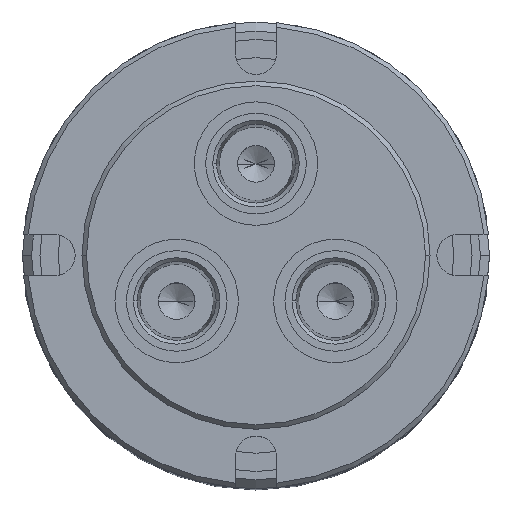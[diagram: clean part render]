
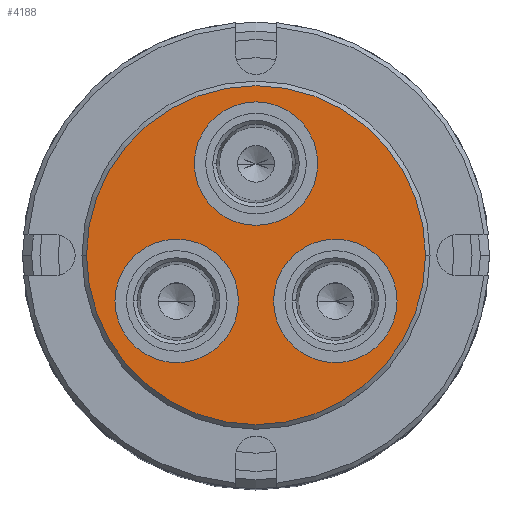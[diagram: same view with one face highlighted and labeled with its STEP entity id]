
A CAD part, top view. The second image highlights one B-rep face of the part: STEP entity #4188.
In plain terms, the highlighted planar face has unit normal (0, 0, 1).
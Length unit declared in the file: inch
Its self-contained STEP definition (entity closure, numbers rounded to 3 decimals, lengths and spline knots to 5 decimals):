
#668 = CARTESIAN_POINT ( 'NONE',  ( 0.54127, -0.3125, 0. ) ) ;
#669 = DIRECTION ( 'NONE',  ( 0., 0., 1. ) ) ;
#670 = DIRECTION ( 'NONE',  ( -0.5, -0.866, 0. ) ) ;
#848 = CARTESIAN_POINT ( 'NONE',  ( 0.54127, -0.3125, 0. ) ) ;
#849 = DIRECTION ( 'NONE',  ( 0., 0., 1. ) ) ;
#850 = DIRECTION ( 'NONE',  ( -0.5, -0.866, 0. ) ) ;
#1244 = CARTESIAN_POINT ( 'NONE',  ( -0.54127, -0.3125, 0. ) ) ;
#1245 = DIRECTION ( 'NONE',  ( 0., 0., 1. ) ) ;
#1246 = DIRECTION ( 'NONE',  ( -0.5, 0.866, 0. ) ) ;
#1564 = CARTESIAN_POINT ( 'NONE',  ( 0., 0.625, 0. ) ) ;
#1565 = DIRECTION ( 'NONE',  ( 0., 0., 1. ) ) ;
#1566 = DIRECTION ( 'NONE',  ( 1., 0., 0. ) ) ;
#1833 = CARTESIAN_POINT ( 'NONE',  ( -0.54127, -0.3125, 0. ) ) ;
#1834 = DIRECTION ( 'NONE',  ( 0., 0., 1. ) ) ;
#1835 = DIRECTION ( 'NONE',  ( -0.5, 0.866, 0. ) ) ;
#2181 = CIRCLE ( 'NONE', #2568, 0.4215 ) ;
#2261 = AXIS2_PLACEMENT_3D ( 'NONE', #1564, #1565, #1566 ) ;
#2286 = AXIS2_PLACEMENT_3D ( 'NONE', #848, #849, #850 ) ;
#2288 = CIRCLE ( 'NONE', #2470, 0.4215 ) ;
#2295 = CIRCLE ( 'NONE', #2701, 1.157 ) ;
#2398 = CIRCLE ( 'NONE', #2433, 1.157 ) ;
#2433 = AXIS2_PLACEMENT_3D ( 'NONE', #6083, #6084, #6085 ) ;
#2445 = CIRCLE ( 'NONE', #2500, 0.4215 ) ;
#2470 = AXIS2_PLACEMENT_3D ( 'NONE', #1833, #1834, #1835 ) ;
#2500 = AXIS2_PLACEMENT_3D ( 'NONE', #1244, #1245, #1246 ) ;
#2533 = AXIS2_PLACEMENT_3D ( 'NONE', #6231, #6232, #6233 ) ;
#2568 = AXIS2_PLACEMENT_3D ( 'NONE', #3439, #3440, #3441 ) ;
#2655 = AXIS2_PLACEMENT_3D ( 'NONE', #668, #669, #670 ) ;
#2661 = CIRCLE ( 'NONE', #2261, 0.4215 ) ;
#2663 = CIRCLE ( 'NONE', #2655, 0.4215 ) ;
#2701 = AXIS2_PLACEMENT_3D ( 'NONE', #3547, #3548, #3549 ) ;
#2715 = CIRCLE ( 'NONE', #2286, 0.4215 ) ;
#3439 = CARTESIAN_POINT ( 'NONE',  ( 0., 0.625, 0. ) ) ;
#3440 = DIRECTION ( 'NONE',  ( 0., 0., 1. ) ) ;
#3441 = DIRECTION ( 'NONE',  ( 1., 0., 0. ) ) ;
#3547 = CARTESIAN_POINT ( 'NONE',  ( 0., 0., 0. ) ) ;
#3548 = DIRECTION ( 'NONE',  ( 0., 0., 1. ) ) ;
#3549 = DIRECTION ( 'NONE',  ( -1., 0., 0. ) ) ;
#3857 = CARTESIAN_POINT ( 'NONE',  ( -0.96277, -0.3125, 0. ) ) ;
#3868 = CARTESIAN_POINT ( 'NONE',  ( -0.11977, -0.3125, 0. ) ) ;
#3874 = CARTESIAN_POINT ( 'NONE',  ( 0.96277, -0.3125, 0. ) ) ;
#4002 = CARTESIAN_POINT ( 'NONE',  ( -1.157, 0., 0. ) ) ;
#4009 = CARTESIAN_POINT ( 'NONE',  ( 0.11977, -0.3125, 0. ) ) ;
#4021 = CARTESIAN_POINT ( 'NONE',  ( 1.157, 0., 0. ) ) ;
#4041 = CARTESIAN_POINT ( 'NONE',  ( 0.4215, 0.625, 0. ) ) ;
#4042 = CARTESIAN_POINT ( 'NONE',  ( -0.4215, 0.625, 0. ) ) ;
#4163 = EDGE_CURVE ( 'NONE', #5161, #5180, #2398, .T. ) ;
#4188 = ADVANCED_FACE ( 'NONE', ( #6229, #6230, #6228, #6186 ), #6188, .F. ) ;
#4318 = EDGE_CURVE ( 'NONE', #5033, #5168, #2663, .T. ) ;
#4345 = EDGE_CURVE ( 'NONE', #5168, #5033, #2715, .T. ) ;
#4412 = EDGE_CURVE ( 'NONE', #5016, #5027, #2445, .T. ) ;
#4480 = EDGE_CURVE ( 'NONE', #5201, #5200, #2661, .T. ) ;
#4529 = EDGE_CURVE ( 'NONE', #5027, #5016, #2288, .T. ) ;
#4665 = EDGE_CURVE ( 'NONE', #5200, #5201, #2181, .T. ) ;
#4685 = EDGE_CURVE ( 'NONE', #5180, #5161, #2295, .T. ) ;
#4739 = EDGE_LOOP ( 'NONE', ( #5386, #5387 ) ) ;
#4744 = EDGE_LOOP ( 'NONE', ( #5388, #5389 ) ) ;
#4780 = EDGE_LOOP ( 'NONE', ( #5382, #5383 ) ) ;
#4812 = EDGE_LOOP ( 'NONE', ( #5384, #5385 ) ) ;
#5016 = VERTEX_POINT ( 'NONE', #3857 ) ;
#5027 = VERTEX_POINT ( 'NONE', #3868 ) ;
#5033 = VERTEX_POINT ( 'NONE', #3874 ) ;
#5161 = VERTEX_POINT ( 'NONE', #4002 ) ;
#5168 = VERTEX_POINT ( 'NONE', #4009 ) ;
#5180 = VERTEX_POINT ( 'NONE', #4021 ) ;
#5200 = VERTEX_POINT ( 'NONE', #4041 ) ;
#5201 = VERTEX_POINT ( 'NONE', #4042 ) ;
#5382 = ORIENTED_EDGE ( 'NONE', *, *, #4529, .F. ) ;
#5383 = ORIENTED_EDGE ( 'NONE', *, *, #4412, .F. ) ;
#5384 = ORIENTED_EDGE ( 'NONE', *, *, #4318, .F. ) ;
#5385 = ORIENTED_EDGE ( 'NONE', *, *, #4345, .F. ) ;
#5386 = ORIENTED_EDGE ( 'NONE', *, *, #4665, .F. ) ;
#5387 = ORIENTED_EDGE ( 'NONE', *, *, #4480, .F. ) ;
#5388 = ORIENTED_EDGE ( 'NONE', *, *, #4163, .T. ) ;
#5389 = ORIENTED_EDGE ( 'NONE', *, *, #4685, .T. ) ;
#6083 = CARTESIAN_POINT ( 'NONE',  ( 0., 0., 0. ) ) ;
#6084 = DIRECTION ( 'NONE',  ( 0., 0., 1. ) ) ;
#6085 = DIRECTION ( 'NONE',  ( -1., 0., 0. ) ) ;
#6186 = FACE_OUTER_BOUND ( 'NONE', #4744, .T. ) ;
#6188 = PLANE ( 'NONE',  #2533 ) ;
#6228 = FACE_BOUND ( 'NONE', #4739, .T. ) ;
#6229 = FACE_BOUND ( 'NONE', #4780, .T. ) ;
#6230 = FACE_BOUND ( 'NONE', #4812, .T. ) ;
#6231 = CARTESIAN_POINT ( 'NONE',  ( 0., 0., 0. ) ) ;
#6232 = DIRECTION ( 'NONE',  ( 0., 0., -1. ) ) ;
#6233 = DIRECTION ( 'NONE',  ( -1., 0., 0. ) ) ;
